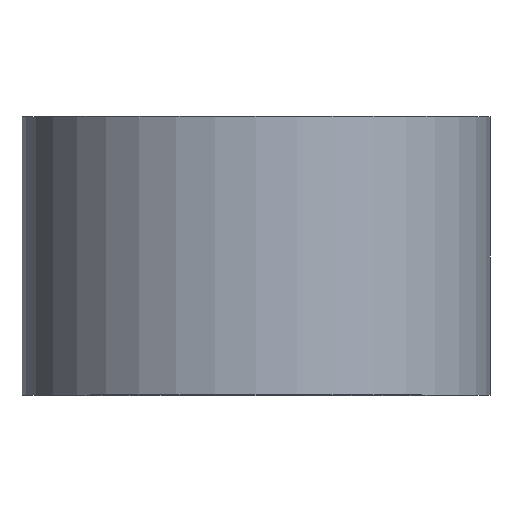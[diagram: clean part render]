
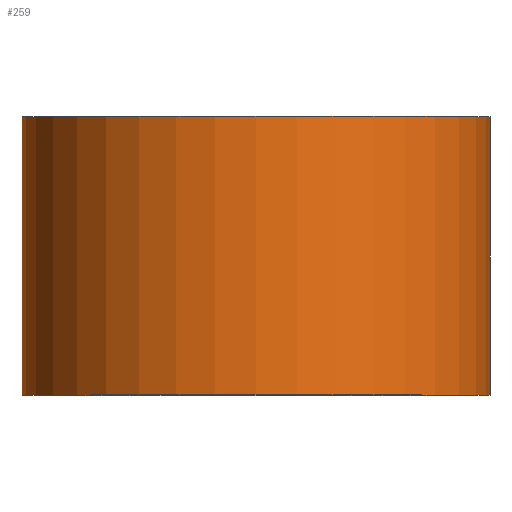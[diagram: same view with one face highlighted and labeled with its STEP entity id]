
A CAD part, top view. The second image highlights one B-rep face of the part: STEP entity #259.
In plain terms, the highlighted cylindrical face has radius 21 mm (diameter 42 mm), a partial arc.
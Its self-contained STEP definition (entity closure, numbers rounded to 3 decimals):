
#2 = VERTEX_POINT ( 'NONE', #278 ) ;
#16 = CARTESIAN_POINT ( 'NONE',  ( 0., 0., 0. ) ) ;
#36 = DIRECTION ( 'NONE',  ( 0., 1., 0. ) ) ;
#38 = DIRECTION ( 'NONE',  ( 0., 1., 0. ) ) ;
#46 = EDGE_CURVE ( 'NONE', #265, #48, #221, .T. ) ;
#48 = VERTEX_POINT ( 'NONE', #49 ) ;
#49 = CARTESIAN_POINT ( 'NONE',  ( -21., 25., 0. ) ) ;
#53 = DIRECTION ( 'NONE',  ( 0., 1., 0. ) ) ;
#55 = DIRECTION ( 'NONE',  ( 0., 1., 0. ) ) ;
#63 = CARTESIAN_POINT ( 'NONE',  ( 21., 0., 0. ) ) ;
#64 = EDGE_CURVE ( 'NONE', #233, #2, #65, .T. ) ;
#65 = LINE ( 'NONE', #262, #180 ) ;
#69 = CARTESIAN_POINT ( 'NONE',  ( -21., 0., 0. ) ) ;
#82 = ORIENTED_EDGE ( 'NONE', *, *, #64, .T. ) ;
#90 = EDGE_CURVE ( 'NONE', #48, #2, #150, .T. ) ;
#101 = VECTOR ( 'NONE', #231, 1000. ) ;
#105 = CIRCLE ( 'NONE', #249, 21. ) ;
#121 = ORIENTED_EDGE ( 'NONE', *, *, #251, .T. ) ;
#128 = AXIS2_PLACEMENT_3D ( 'NONE', #16, #36, #198 ) ;
#144 = CYLINDRICAL_SURFACE ( 'NONE', #128, 21. ) ;
#147 = CARTESIAN_POINT ( 'NONE',  ( 0., 0., 0. ) ) ;
#150 = CIRCLE ( 'NONE', #293, 21. ) ;
#180 = VECTOR ( 'NONE', #55, 1000. ) ;
#187 = EDGE_LOOP ( 'NONE', ( #121, #82, #270, #202 ) ) ;
#198 = DIRECTION ( 'NONE',  ( -1., 0., 0. ) ) ;
#202 = ORIENTED_EDGE ( 'NONE', *, *, #46, .F. ) ;
#208 = FACE_OUTER_BOUND ( 'NONE', #187, .T. ) ;
#211 = DIRECTION ( 'NONE',  ( -1., 0., 0. ) ) ;
#221 = LINE ( 'NONE', #69, #101 ) ;
#231 = DIRECTION ( 'NONE',  ( 0., 1., 0. ) ) ;
#233 = VERTEX_POINT ( 'NONE', #63 ) ;
#244 = DIRECTION ( 'NONE',  ( -1., 0., 0. ) ) ;
#249 = AXIS2_PLACEMENT_3D ( 'NONE', #147, #38, #244 ) ;
#251 = EDGE_CURVE ( 'NONE', #265, #233, #105, .T. ) ;
#259 = ADVANCED_FACE ( 'NONE', ( #208 ), #144, .T. ) ;
#262 = CARTESIAN_POINT ( 'NONE',  ( 21., 0., 0. ) ) ;
#264 = CARTESIAN_POINT ( 'NONE',  ( 0., 25., 0. ) ) ;
#265 = VERTEX_POINT ( 'NONE', #292 ) ;
#270 = ORIENTED_EDGE ( 'NONE', *, *, #90, .F. ) ;
#278 = CARTESIAN_POINT ( 'NONE',  ( 21., 25., 0. ) ) ;
#292 = CARTESIAN_POINT ( 'NONE',  ( -21., 0., 0. ) ) ;
#293 = AXIS2_PLACEMENT_3D ( 'NONE', #264, #53, #211 ) ;
